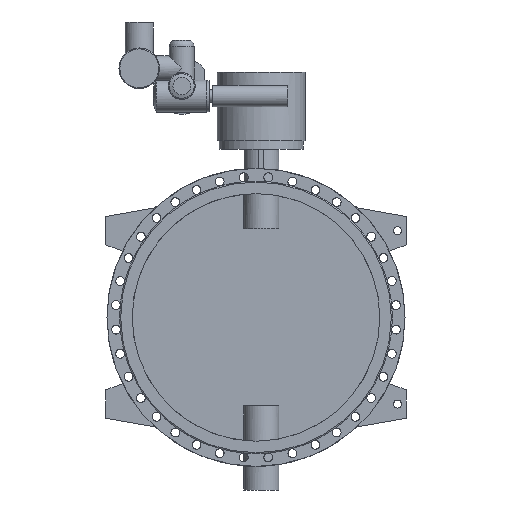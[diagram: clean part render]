
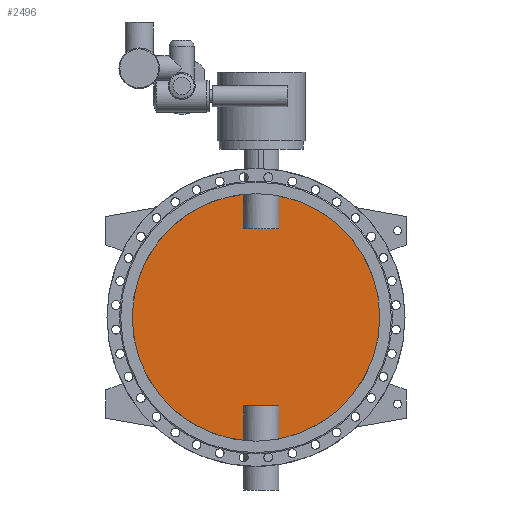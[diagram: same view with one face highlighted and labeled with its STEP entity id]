
A CAD part, front view. The second image highlights one B-rep face of the part: STEP entity #2496.
In plain terms, the highlighted planar face has unit normal (0, -1, 0).
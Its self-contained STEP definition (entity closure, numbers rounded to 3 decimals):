
#2496=ADVANCED_FACE('',(#5097),#5099,.F.);
#5097=FACE_BOUND('',#5098,.T.);
#5098=EDGE_LOOP('',(#6487,#6488,#6489,#6490,#6491,#6492,#6493,#6494));
#5099=PLANE('',#5100);
#5100=AXIS2_PLACEMENT_3D('',#5101,#5102,#5103);
#5101=CARTESIAN_POINT('',(0.,-5.,0.));
#5102=DIRECTION('',(0.,1.,0.));
#5103=DIRECTION('',(1.,0.,0.));
#6487=ORIENTED_EDGE('',*,*,#7183,.T.);
#6488=ORIENTED_EDGE('',*,*,#7188,.T.);
#6489=ORIENTED_EDGE('',*,*,#7189,.T.);
#6490=ORIENTED_EDGE('',*,*,#7190,.T.);
#6491=ORIENTED_EDGE('',*,*,#7185,.T.);
#6492=ORIENTED_EDGE('',*,*,#7191,.T.);
#6493=ORIENTED_EDGE('',*,*,#7192,.T.);
#6494=ORIENTED_EDGE('',*,*,#7193,.T.);
#7183=EDGE_CURVE('',#8381,#8382,#8383,.F.);
#7185=EDGE_CURVE('',#8386,#8384,#8387,.F.);
#7188=EDGE_CURVE('',#8382,#8391,#8392,.T.);
#7189=EDGE_CURVE('',#8391,#8393,#8394,.F.);
#7190=EDGE_CURVE('',#8393,#8386,#8395,.F.);
#7191=EDGE_CURVE('',#8384,#8396,#8397,.F.);
#7192=EDGE_CURVE('',#8396,#8398,#8399,.F.);
#7193=EDGE_CURVE('',#8398,#8381,#8400,.T.);
#8381=VERTEX_POINT('',#13286);
#8382=VERTEX_POINT('',#13287);
#8383=CIRCLE('',#13288,700.);
#8384=VERTEX_POINT('',#13292);
#8386=VERTEX_POINT('',#13354);
#8387=CIRCLE('',#13355,700.);
#8391=VERTEX_POINT('',#13489);
#8392=LINE('',#13490,#13491);
#8393=VERTEX_POINT('',#13493);
#8394=LINE('',#13494,#13495);
#8395=LINE('',#13497,#13498);
#8396=VERTEX_POINT('',#13500);
#8397=LINE('',#13501,#13502);
#8398=VERTEX_POINT('',#13504);
#8399=LINE('',#13505,#13506);
#8400=LINE('',#13508,#13509);
#13286=CARTESIAN_POINT('',(129.875,-5.,-687.846));
#13287=CARTESIAN_POINT('',(129.875,-5.,687.846));
#13288=AXIS2_PLACEMENT_3D('',#13289,#13290,#13291);
#13289=CARTESIAN_POINT('',(0.,-5.,0.));
#13290=DIRECTION('',(0.,1.,0.));
#13291=DIRECTION('',(0.186,0.,0.983));
#13292=CARTESIAN_POINT('',(-69.875,-5.,-696.504));
#13354=CARTESIAN_POINT('',(-69.875,-5.,696.504));
#13355=AXIS2_PLACEMENT_3D('',#13356,#13357,#13358);
#13356=CARTESIAN_POINT('',(0.,-5.,0.));
#13357=DIRECTION('',(0.,1.,0.));
#13358=DIRECTION('',(-0.1,0.,-0.995));
#13489=CARTESIAN_POINT('',(129.875,-5.,500.));
#13490=CARTESIAN_POINT('',(129.875,-5.,687.846));
#13491=VECTOR('',#13492,1.);
#13492=DIRECTION('',(0.,0.,-1.));
#13493=CARTESIAN_POINT('',(-69.875,-5.,500.));
#13494=CARTESIAN_POINT('',(-69.875,-5.,500.));
#13495=VECTOR('',#13496,1.);
#13496=DIRECTION('',(1.,0.,0.));
#13497=CARTESIAN_POINT('',(-69.875,-5.,696.504));
#13498=VECTOR('',#13499,1.);
#13499=DIRECTION('',(0.,0.,-1.));
#13500=CARTESIAN_POINT('',(-69.875,-5.,-500.));
#13501=CARTESIAN_POINT('',(-69.875,-5.,-500.));
#13502=VECTOR('',#13503,1.);
#13503=DIRECTION('',(0.,0.,-1.));
#13504=CARTESIAN_POINT('',(129.875,-5.,-500.));
#13505=CARTESIAN_POINT('',(129.875,-5.,-500.));
#13506=VECTOR('',#13507,1.);
#13507=DIRECTION('',(-1.,0.,0.));
#13508=CARTESIAN_POINT('',(129.875,-5.,-500.));
#13509=VECTOR('',#13510,1.);
#13510=DIRECTION('',(0.,0.,-1.));
